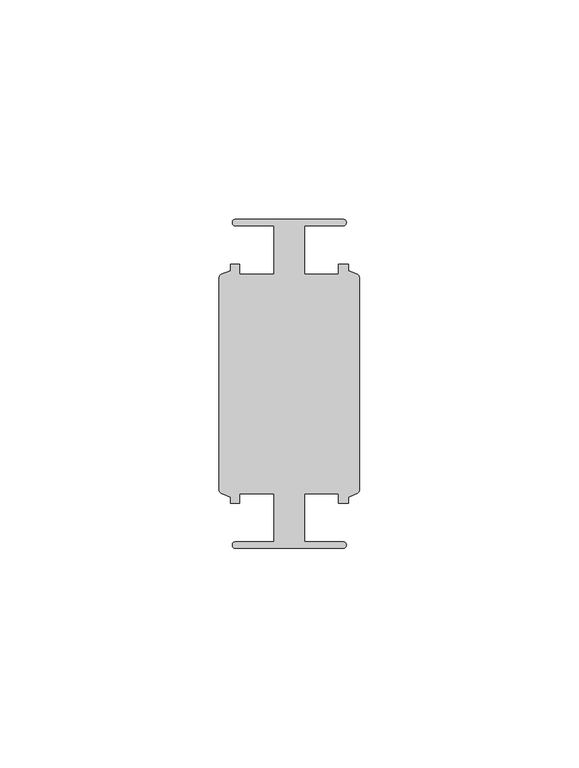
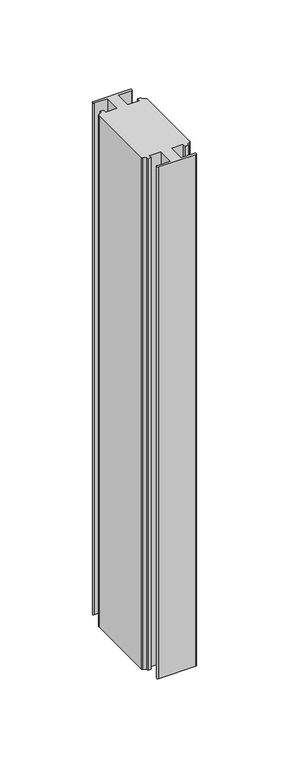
"""IFC4 building model written with IfcOpenShell, lengths in millimetres: member geometry, Прямоугольный импост : 4-AMG-2-Профиль 26Х75 Средний."""

from ifc_helpers import new_model, si_unit, point, frame, frame_2d, origin, place, context, project, spatial, polyline, circle_curve, trimmed, segment, composite_curve, outline, extrude, source, transform, mapped, element, save


def member_2d3e5994(model_context):
    return source(origin(), model_context, "Body", "SweptSolid", [
        extrude(outline(composite_curve([segment(trimmed(circle_curve(frame_2d((12.2876562, 36.75)), 0.75), [point((12.2876562, 37.5))], [point((12.2876562, 36.0))], False, "CARTESIAN"), True, "CONTINUOUS"), segment(polyline([(12.2876562, 36.0), (3.5376562, 36.0), (3.5376562, 25.0), (11.2593767, 25.0), (11.2593767, 27.25), (13.4846403, 27.25), (13.4846403, 25.836597), (15.5572539, 24.9333875)]), True, "CONTINUOUS"), segment(trimmed(circle_curve(frame_2d((15.2376562, 24.2)), 0.8), [point((15.5572539, 24.9333875))], [point((16.0376562, 24.2))], False, "CARTESIAN"), True, "CONTINUOUS"), segment(polyline([(16.0376562, 24.2), (16.0376562, -24.2)]), True, "CONTINUOUS"), segment(trimmed(circle_curve(frame_2d((15.2376562, -24.2)), 0.8), [point((16.0376562, -24.2))], [point((15.5572539, -24.9333875))], False, "CARTESIAN"), True, "CONTINUOUS"), segment(polyline([(15.5572539, -24.9333875), (13.4846403, -25.836597), (13.4846403, -27.25), (11.2593767, -27.25), (11.2593767, -24.9914758), (3.5376562, -24.9914758), (3.5376562, -36.0), (12.2876562, -36.0)]), True, "CONTINUOUS"), segment(trimmed(circle_curve(frame_2d((12.2876562, -36.75)), 0.75), [point((12.2876562, -36.0))], [point((12.2876562, -37.5))], False, "CARTESIAN"), True, "CONTINUOUS"), segment(polyline([(12.2876562, -37.5), (-12.2123438, -37.5)]), True, "CONTINUOUS"), segment(trimmed(circle_curve(frame_2d((-12.2123438, -36.75)), 0.75), [point((-12.2123438, -37.5))], [point((-12.2123438, -36.0))], False, "CARTESIAN"), True, "CONTINUOUS"), segment(polyline([(-12.2123438, -36.0), (-3.4623438, -36.0), (-3.4623438, -24.9913353), (-11.2593767, -24.9913353), (-11.2593767, -27.25), (-13.4093278, -27.25), (-13.4093278, -25.836597), (-15.4819415, -24.9333875)]), True, "CONTINUOUS"), segment(trimmed(circle_curve(frame_2d((-15.1623438, -24.2)), 0.8), [point((-15.4819415, -24.9333875))], [point((-15.9623438, -24.2))], False, "CARTESIAN"), True, "CONTINUOUS"), segment(polyline([(-15.9623438, -24.2), (-15.9623438, 24.2)]), True, "CONTINUOUS"), segment(trimmed(circle_curve(frame_2d((-15.1623438, 24.2)), 0.8), [point((-15.9623438, 24.2))], [point((-15.4819415, 24.9333875))], False, "CARTESIAN"), True, "CONTINUOUS"), segment(polyline([(-15.4819415, 24.9333875), (-13.4093278, 25.836597), (-13.4093278, 27.25), (-11.2593767, 27.25), (-11.2593767, 25.0), (-3.4623438, 25.0), (-3.4623438, 36.0), (-12.2123438, 36.0)]), True, "CONTINUOUS"), segment(trimmed(circle_curve(frame_2d((-12.2123438, 36.75)), 0.75), [point((-12.2123438, 36.0))], [point((-12.2123438, 37.5))], False, "CARTESIAN"), True, "CONTINUOUS"), segment(polyline([(-12.2123438, 37.5), (12.2876562, 37.5)]), True, "CONTINUOUS")], self_intersect=False)), frame((0.0, 0.0, -356.9623438), z_axis=(0.0, 0.0, 1.0), x_axis=(1.0, 0.0, 0.0)), (0.0, 0.0, 1.0), 356.9623438),
    ])


if __name__ == "__main__":
    model = new_model("IFC4")
    model_context = context("Model", 3, world=origin())
    ifc_project = project(units=[si_unit("LENGTHUNIT", "METRE", prefix="MILLI")], contexts=[model_context])
    site = spatial("IfcSite", under=ifc_project)
    building = spatial("IfcBuilding", under=site)
    placement = place(None, origin())
    member_shape = member_2d3e5994(model_context)
    element("IfcMember", 1, ObjectType="Прямоугольный импост : 4-AMG-2-Профиль 26Х75 Средний", at=placement, inside=building, context=model_context, shape_type="MappedRepresentation", body=[
        mapped(member_shape, transform((0.0, 0.0, 0.0), x_axis=(1.0, 0.0, 0.0), y_axis=(0.0, 1.0, 0.0), z_axis=(0.0, 0.0, 1.0))),
    ])
    save(model, "model.ifc")
